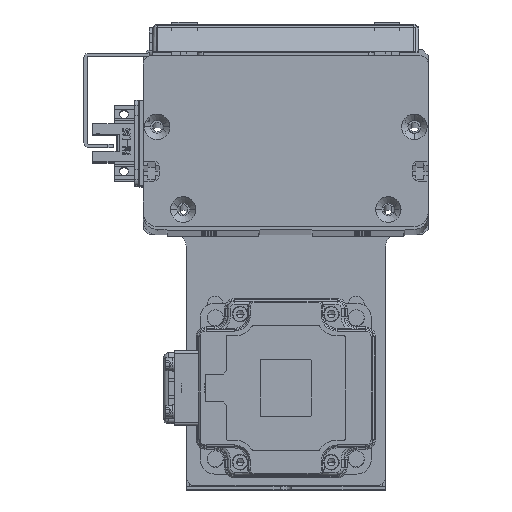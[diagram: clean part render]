
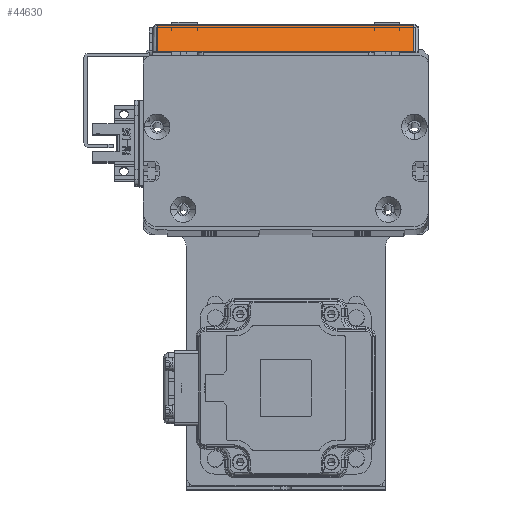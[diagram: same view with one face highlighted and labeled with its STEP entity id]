
A CAD part, top view. The second image highlights one B-rep face of the part: STEP entity #44630.
In plain terms, the highlighted planar face has unit normal (0, 0.707, 0.707) as drawn and (-0.707, 0, -0.707) by its records, which use the part's own axes.
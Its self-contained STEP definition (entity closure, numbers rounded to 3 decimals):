
#3150 = DIRECTION ( 'NONE',  ( 0., -1., 0. ) ) ;
#6413 = EDGE_CURVE ( 'NONE', #65575, #65388, #9671, .T. ) ;
#6823 = ORIENTED_EDGE ( 'NONE', *, *, #13773, .T. ) ;
#9311 = CARTESIAN_POINT ( 'NONE',  ( -57.298, 1.7, -5.102 ) ) ;
#9671 = LINE ( 'NONE', #26252, #28642 ) ;
#13773 = EDGE_CURVE ( 'NONE', #65388, #39448, #45791, .T. ) ;
#13949 = EDGE_LOOP ( 'NONE', ( #33744, #63299, #18333, #6823 ) ) ;
#14403 = AXIS2_PLACEMENT_3D ( 'NONE', #26631, #48974, #15531 ) ;
#14984 = DIRECTION ( 'NONE',  ( 0., 1., 0. ) ) ;
#15531 = DIRECTION ( 'NONE',  ( -0.707, 0., 0.707 ) ) ;
#18333 = ORIENTED_EDGE ( 'NONE', *, *, #6413, .T. ) ;
#18522 = LINE ( 'NONE', #31357, #30497 ) ;
#19645 = EDGE_CURVE ( 'NONE', #28308, #65575, #18522, .T. ) ;
#20657 = CARTESIAN_POINT ( 'NONE',  ( -66.5, 1.7, 4.1 ) ) ;
#22071 = FACE_OUTER_BOUND ( 'NONE', #13949, .T. ) ;
#25027 = CARTESIAN_POINT ( 'NONE',  ( -68., 1.7, 5.6 ) ) ;
#26252 = CARTESIAN_POINT ( 'NONE',  ( -68., 91.7, 5.6 ) ) ;
#26631 = CARTESIAN_POINT ( 'NONE',  ( -68., 93.4, 5.6 ) ) ;
#28308 = VERTEX_POINT ( 'NONE', #20657 ) ;
#28642 = VECTOR ( 'NONE', #69913, 1000. ) ;
#30497 = VECTOR ( 'NONE', #14984, 1000. ) ;
#31357 = CARTESIAN_POINT ( 'NONE',  ( -66.5, 93.4, 4.1 ) ) ;
#33744 = ORIENTED_EDGE ( 'NONE', *, *, #37142, .T. ) ;
#37142 = EDGE_CURVE ( 'NONE', #39448, #28308, #54202, .T. ) ;
#38432 = PLANE ( 'NONE',  #14403 ) ;
#39448 = VERTEX_POINT ( 'NONE', #9311 ) ;
#43195 = CARTESIAN_POINT ( 'NONE',  ( -66.5, 91.7, 4.1 ) ) ;
#44630 = ADVANCED_FACE ( 'NONE', ( #22071 ), #38432, .T. ) ;
#45791 = LINE ( 'NONE', #69621, #56864 ) ;
#46940 = DIRECTION ( 'NONE',  ( -0.707, 0., 0.707 ) ) ;
#48974 = DIRECTION ( 'NONE',  ( -0.707, 0., -0.707 ) ) ;
#54202 = LINE ( 'NONE', #25027, #66295 ) ;
#56864 = VECTOR ( 'NONE', #3150, 1000. ) ;
#63050 = CARTESIAN_POINT ( 'NONE',  ( -57.298, 91.7, -5.102 ) ) ;
#63299 = ORIENTED_EDGE ( 'NONE', *, *, #19645, .T. ) ;
#65388 = VERTEX_POINT ( 'NONE', #63050 ) ;
#65575 = VERTEX_POINT ( 'NONE', #43195 ) ;
#66295 = VECTOR ( 'NONE', #46940, 1000. ) ;
#69621 = CARTESIAN_POINT ( 'NONE',  ( -57.298, 93.4, -5.102 ) ) ;
#69913 = DIRECTION ( 'NONE',  ( 0.707, 0., -0.707 ) ) ;
